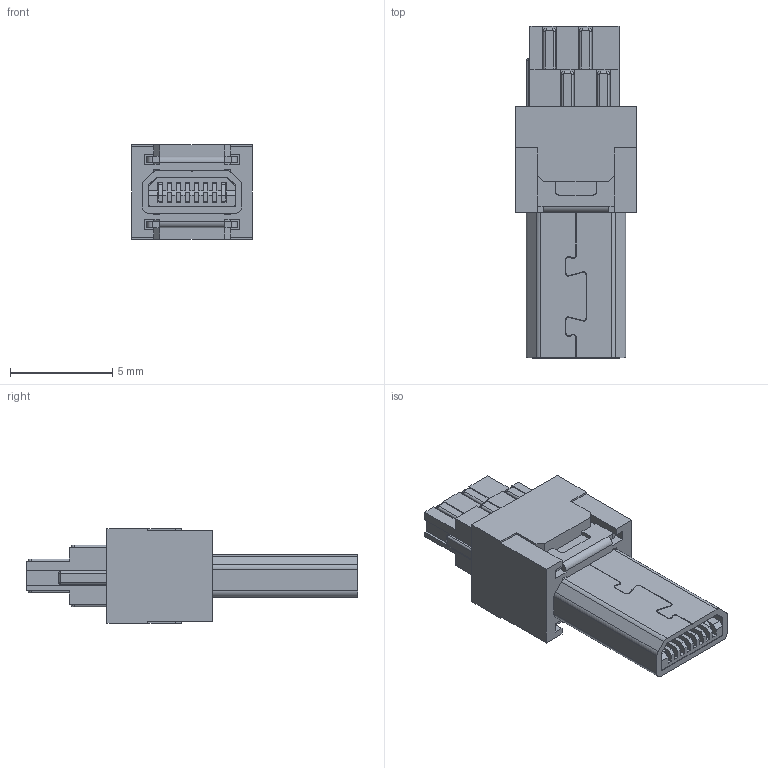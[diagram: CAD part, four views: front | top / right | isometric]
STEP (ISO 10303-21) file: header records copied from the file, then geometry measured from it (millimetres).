
FILE_DESCRIPTION((''),'2;1');
FILE_NAME('USB_8P','2024-11-06T12:06:22',('Administrator'),(''),'CREO PARAMETRIC BY PTC INC, 2020053','CREO PARAMETRIC BY PTC INC, 2020053','');
FILE_SCHEMA(('AUTOMOTIVE_DESIGN { 1 0 10303 214 1 1 1 1 }'));
Length unit declared in the file: millimetre
Products named in the file (1): USB_8P
Bounding box: 5.9 x 16.2 x 4.6 mm (x, y, z)
Volume: 212.4 mm3; surface area: 714.9 mm2
Topology: 1 solids, 1 shells, 514 faces, 1491 edges, 968 vertices
Faces by surface type: plane 387, cylinder 109, bspline 16, sphere 2
Entity records: 16971 total; most frequent: CARTESIAN_POINT 3220, ORIENTED_EDGE 2982, DIRECTION 2719, EDGE_CURVE 1491, VECTOR 1255, LINE 1255, VERTEX_POINT 968, AXIS2_PLACEMENT_3D 732
